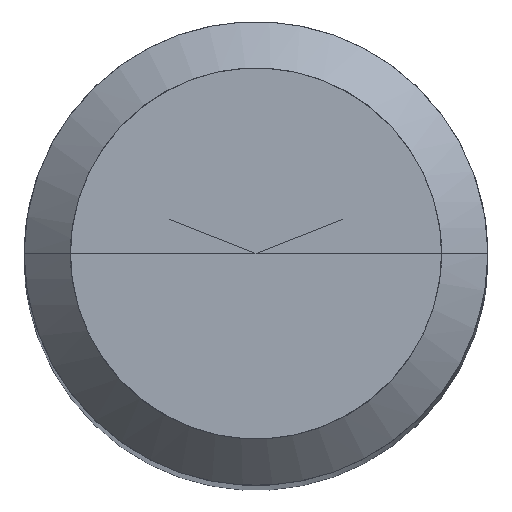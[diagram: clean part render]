
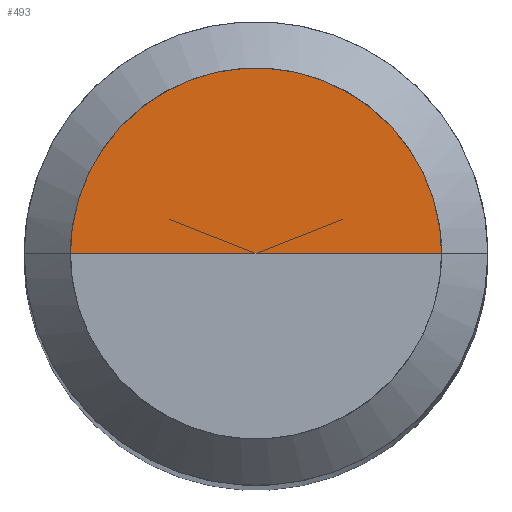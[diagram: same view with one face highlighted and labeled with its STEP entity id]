
A CAD part, top view. The second image highlights one B-rep face of the part: STEP entity #493.
In plain terms, the highlighted free-form (B-spline) face has degree [1, 2] with [2, 5] control points.
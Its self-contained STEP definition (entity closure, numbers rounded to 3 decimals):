
#295=CARTESIAN_POINT('',(4.0,0.0,61.0));
#296=CARTESIAN_POINT('',(4.0,4.0,61.0));
#297=CARTESIAN_POINT('',(0.0,4.0,61.0));
#298=CARTESIAN_POINT('',(-4.0,4.0,61.0));
#299=CARTESIAN_POINT('',(-4.0,0.0,61.0));
#300=CARTESIAN_POINT('',(0.0,0.0,61.0));
#478=(
BOUNDED_SURFACE()
B_SPLINE_SURFACE(1,2,(
(#295,#296,#297,#298,#299),
(#300,#300,#300,#300,#300)
), .UNSPECIFIED.,.F.,.F.,.F.)
B_SPLINE_SURFACE_WITH_KNOTS((2,2),(3,2,3),(
0.0,1.0),(
0.0,0.5,1.0), .UNSPECIFIED.)
GEOMETRIC_REPRESENTATION_ITEM()
RATIONAL_B_SPLINE_SURFACE(((1.0,0.707,1.0,0.707,1.0),
(1.0,0.707,1.0,0.707,1.0)
))
REPRESENTATION_ITEM('')
SURFACE()
);
#479=(
BOUNDED_CURVE()
B_SPLINE_CURVE(2,(#299,#298,#297,#296,#295),.UNSPECIFIED.,.F.,.F.)
B_SPLINE_CURVE_WITH_KNOTS((3,2,3),
(0.0,0.5,1.0),.UNSPECIFIED.)
CURVE()
GEOMETRIC_REPRESENTATION_ITEM()
RATIONAL_B_SPLINE_CURVE((1.0,0.707,1.0,0.707,1.0))
REPRESENTATION_ITEM('')
);
#480=(
BOUNDED_CURVE()
B_SPLINE_CURVE(1,(#295,#300),.UNSPECIFIED.,.F.,.F.)
B_SPLINE_CURVE_WITH_KNOTS((2,2),
(0.0,1.0),.UNSPECIFIED.)
CURVE()
GEOMETRIC_REPRESENTATION_ITEM()
RATIONAL_B_SPLINE_CURVE((1.0,1.0))
REPRESENTATION_ITEM('')
);
#481=(
BOUNDED_CURVE()
B_SPLINE_CURVE(1,(#300,#299),.UNSPECIFIED.,.F.,.F.)
B_SPLINE_CURVE_WITH_KNOTS((2,2),
(0.0,1.0),.UNSPECIFIED.)
CURVE()
GEOMETRIC_REPRESENTATION_ITEM()
RATIONAL_B_SPLINE_CURVE((1.0,1.0))
REPRESENTATION_ITEM('')
);
#482=VERTEX_POINT('',#295);
#483=VERTEX_POINT('',#299);
#484=VERTEX_POINT('',#300);
#485=EDGE_CURVE('',#483,#482,#479,.T.);
#486=EDGE_CURVE('',#482,#484,#480,.T.);
#487=EDGE_CURVE('',#484,#483,#481,.T.);
#488=ORIENTED_EDGE('',*,*,#485,.T.);
#489=ORIENTED_EDGE('',*,*,#486,.T.);
#490=ORIENTED_EDGE('',*,*,#487,.T.);
#491=EDGE_LOOP('',(#488,#489,#490));
#492=FACE_OUTER_BOUND('',#491,.T.);
#493=ADVANCED_FACE('',(#492),#478,.T.);
